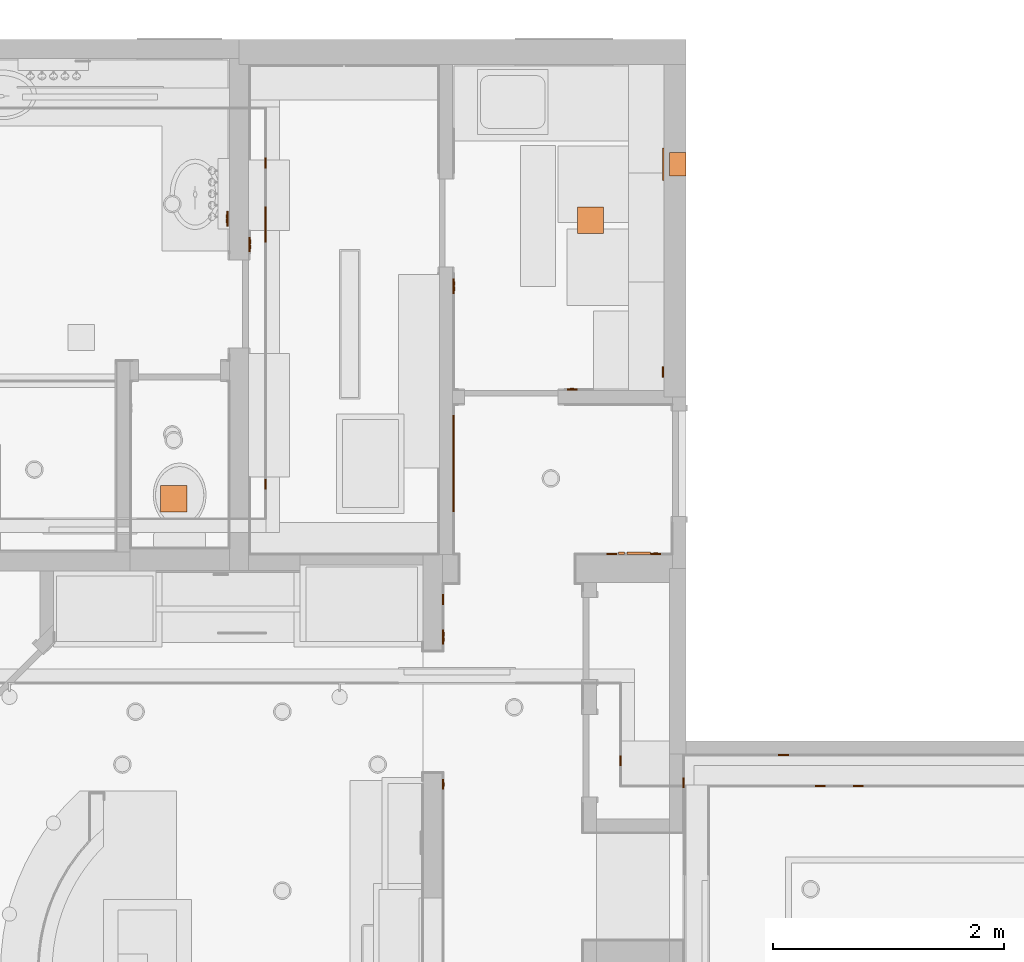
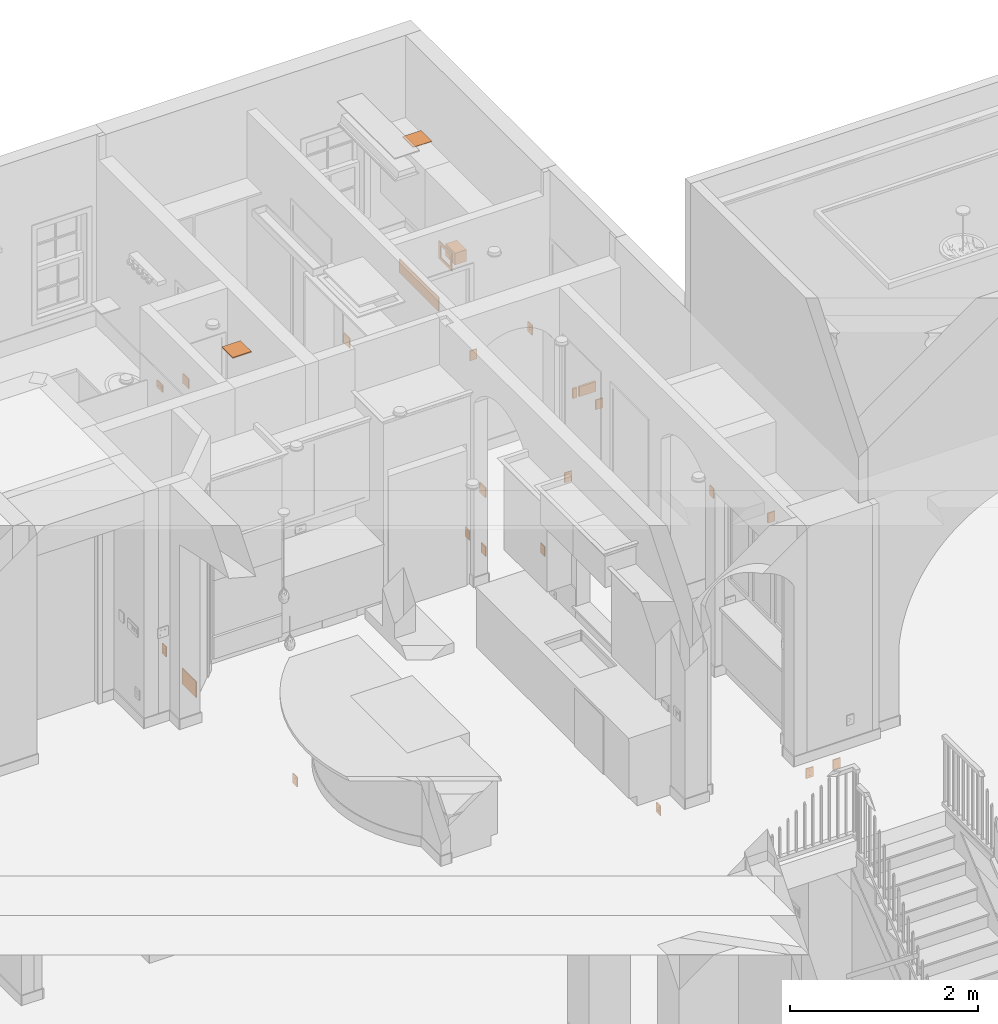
# One storey, part 69 of 81: 25 proxies.
"""IFC2X3 building model written with IfcOpenShell, lengths in feet."""

from ifc_helpers import new_model, entity, si_unit, converted_unit, derived_unit, direction, frame, frame_2d, origin, origin_2d_with_axis, place, context, subcontext, project, spatial, polyline, circle_curve, parameter, trimmed, segment, composite_curve, rectangle, outline, extrude, source, transform, mapped, material, type_object, type_shapes, element, save


model = new_model("IFC2X3")

# Units and contexts
model_context = context("Model", 3, precision=0.0001, world=origin(), true_north=direction((6.12303176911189e-17, 1.0)))
body_context = subcontext(model_context, "Body", "Model", "MODEL_VIEW")
ifc_project = project(units=[converted_unit("LENGTHUNIT", "FOOT", entity("IfcRatioMeasure", 0.3048), si_unit("LENGTHUNIT", "METRE"), dimensions=[1, 0, 0, 0, 0, 0, 0]), converted_unit("AREAUNIT", "SQUARE FOOT", entity("IfcRatioMeasure", 0.09290304), si_unit("AREAUNIT", "SQUARE_METRE"), dimensions=[2, 0, 0, 0, 0, 0, 0]), converted_unit("VOLUMEUNIT", "CUBIC FOOT", entity("IfcRatioMeasure", 0.028316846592), si_unit("VOLUMEUNIT", "CUBIC_METRE"), dimensions=[3, 0, 0, 0, 0, 0, 0]), converted_unit("PLANEANGLEUNIT", "DEGREE", entity("IfcRatioMeasure", 0.0174532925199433), si_unit("PLANEANGLEUNIT", "RADIAN"), dimensions=[0, 0, 0, 0, 0, 0, 0]), si_unit("MASSUNIT", "GRAM", prefix="KILO"), derived_unit("MASSDENSITYUNIT", [(si_unit("MASSUNIT", "GRAM", prefix="KILO"), 1), (si_unit("LENGTHUNIT", "METRE"), -3)]), derived_unit("MOMENTOFINERTIAUNIT", [(si_unit("LENGTHUNIT", "METRE"), 4)]), si_unit("TIMEUNIT", "SECOND"), si_unit("FREQUENCYUNIT", "HERTZ"), si_unit("THERMODYNAMICTEMPERATUREUNIT", "DEGREE_CELSIUS"), derived_unit("THERMALTRANSMITTANCEUNIT", [(si_unit("MASSUNIT", "GRAM", prefix="KILO"), 1), (si_unit("THERMODYNAMICTEMPERATUREUNIT", "KELVIN"), -1), (si_unit("TIMEUNIT", "SECOND"), -3)]), derived_unit("VOLUMETRICFLOWRATEUNIT", [(si_unit("LENGTHUNIT", "METRE"), 3), (si_unit("TIMEUNIT", "SECOND"), -1)]), si_unit("ELECTRICCURRENTUNIT", "AMPERE"), si_unit("ELECTRICVOLTAGEUNIT", "VOLT"), si_unit("POWERUNIT", "WATT"), si_unit("FORCEUNIT", "NEWTON"), si_unit("ILLUMINANCEUNIT", "LUX"), si_unit("LUMINOUSFLUXUNIT", "LUMEN"), si_unit("LUMINOUSINTENSITYUNIT", "CANDELA"), derived_unit("USERDEFINED", [(si_unit("MASSUNIT", "GRAM", prefix="KILO"), -1), (si_unit("LENGTHUNIT", "METRE"), -2), (si_unit("TIMEUNIT", "SECOND"), 3), (si_unit("LUMINOUSFLUXUNIT", "LUMEN"), 1)]), derived_unit("LINEARVELOCITYUNIT", [(si_unit("LENGTHUNIT", "METRE"), 1), (si_unit("TIMEUNIT", "SECOND"), -1)]), si_unit("PRESSUREUNIT", "PASCAL"), derived_unit("USERDEFINED", [(si_unit("LENGTHUNIT", "METRE"), -2), (si_unit("MASSUNIT", "GRAM", prefix="KILO"), 1), (si_unit("TIMEUNIT", "SECOND"), -2)]), derived_unit("LINEARFORCEUNIT", [(si_unit("MASSUNIT", "GRAM", prefix="KILO"), 1), (si_unit("LENGTHUNIT", "METRE"), 1), (si_unit("TIMEUNIT", "SECOND"), -2), (si_unit("LENGTHUNIT", "METRE"), -1)]), derived_unit("PLANARFORCEUNIT", [(si_unit("MASSUNIT", "GRAM", prefix="KILO"), 1), (si_unit("LENGTHUNIT", "METRE"), 1), (si_unit("TIMEUNIT", "SECOND"), -2), (si_unit("LENGTHUNIT", "METRE"), -2)])], contexts=[model_context])

# Site, building, storey
site_placement = place(None, origin())
site = spatial("IfcSite", under=ifc_project, at=site_placement, Name="Default", CompositionType="ELEMENT")
building_placement = place(site_placement, origin())
building = spatial("IfcBuilding", under=site, at=building_placement, CompositionType="ELEMENT")
storey_placement = place(building_placement, origin())
storey = spatial("IfcBuildingStorey", under=building, at=storey_placement, Name="First floor", CompositionType="ELEMENT", Elevation=0.0)

# Proxies
ifc_material = material(Name="Default New Material")
building_element_proxy_type_1 = type_object("IfcBuildingElementProxyType", Name="Switch 4:Switch 4", PredefinedType="NOTDEFINED", material=ifc_material)
shared_shape_1 = source(origin(), body_context, "Body", "SweptSolid", [
    extrude(outline(composite_curve([segment(polyline([(-0.0309162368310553, -0.0465871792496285), (0.0309162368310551, -0.0465871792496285)]), True, "CONTINUOUS"), segment(trimmed(circle_curve(frame_2d((-0.000264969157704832, 0.0), x_axis=(-1.0, 0.0)), 0.056059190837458), [parameter(123.794740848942)], [parameter(236.205259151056)], True, "PARAMETER"), True, "CONTINUOUS"), segment(polyline([(0.0309162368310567, 0.0465871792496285), (-0.0309162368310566, 0.0465871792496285)]), True, "CONTINUOUS"), segment(trimmed(circle_curve(frame_2d((0.000264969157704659, 0.0), x_axis=(1.0, 0.0)), 0.056059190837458), [parameter(123.794740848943)], [parameter(236.205259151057)], True, "PARAMETER"), True, "CONTINUOUS")], self_intersect=False), holes=[polyline([(0.0141623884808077, 0.0279286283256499), (0.0261732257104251, 0.0279286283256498), (0.026173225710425, -0.00693584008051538), (0.0141623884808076, -0.00693584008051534), (0.0141623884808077, 0.0279286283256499)]), polyline([(-0.0152702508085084, 0.0250466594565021), (-0.0152702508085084, -0.00448340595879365), (-0.0278178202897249, -0.00448340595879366), (-0.0278178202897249, 0.0250466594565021), (-0.0152702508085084, 0.0250466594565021)]), composite_curve([segment(polyline([(-0.0120315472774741, -0.041319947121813), (-0.0120315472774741, -0.0300186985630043)]), True, "CONTINUOUS"), segment(trimmed(circle_curve(frame_2d((-0.000284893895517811, -0.0300186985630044), x_axis=(-1.0, 0.0)), 0.0117466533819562), [parameter(180.0)], [parameter(0.0)], True, "PARAMETER"), False, "CONTINUOUS"), segment(polyline([(0.0114617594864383, -0.0300186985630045), (0.0114617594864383, -0.0413199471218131)]), True, "CONTINUOUS"), segment(polyline([(0.0114617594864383, -0.0413199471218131), (-0.0120315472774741, -0.041319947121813)]), True, "CONTINUOUS")], self_intersect=False)]), frame((-0.0114927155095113, 0.0416666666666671, 0.27060332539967), z_axis=(0.0, 1.0, 0.0), x_axis=(-1.0, 0.0, 0.0)), (0.0, 0.0, 1.0), 0.00420900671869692),
    extrude(outline(composite_curve([segment(polyline([(-0.0307631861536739, -0.0463565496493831), (0.0307631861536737, -0.0463565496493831)]), True, "CONTINUOUS"), segment(trimmed(circle_curve(frame_2d((-0.000263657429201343, 0.0), x_axis=(-1.0, 0.0)), 0.0557816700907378), [parameter(123.794740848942)], [parameter(236.205259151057)], True, "PARAMETER"), True, "CONTINUOUS"), segment(polyline([(0.030763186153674, 0.0463565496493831), (-0.0307631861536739, 0.0463565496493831)]), True, "CONTINUOUS"), segment(trimmed(circle_curve(frame_2d((0.00026365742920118, 0.0), x_axis=(1.0, 0.0)), 0.0557816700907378), [parameter(123.794740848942)], [parameter(236.205259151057)], True, "PARAMETER"), True, "CONTINUOUS")], self_intersect=False), holes=[polyline([(0.0140922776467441, 0.0247228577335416), (0.026043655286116, 0.0247228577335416), (0.0260436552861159, -0.00472751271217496), (0.014092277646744, -0.00472751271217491), (0.0140922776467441, 0.0247228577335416)]), polyline([(-0.0151946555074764, 0.0249226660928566), (-0.0151946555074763, -0.0044612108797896), (-0.0276801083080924, -0.00446121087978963), (-0.0276801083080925, 0.0249226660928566), (-0.0151946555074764, 0.0249226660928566)]), composite_curve([segment(polyline([(-0.0119719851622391, -0.0411153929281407), (-0.011971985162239, -0.0298700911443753)]), True, "CONTINUOUS"), segment(trimmed(circle_curve(frame_2d((-0.000283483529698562, -0.0298700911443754), x_axis=(-1.0, 0.0)), 0.0116885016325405), [parameter(180.0)], [parameter(0.0)], True, "PARAMETER"), False, "CONTINUOUS"), segment(polyline([(0.0114050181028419, -0.0298700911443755), (0.0114050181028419, -0.0411153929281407)]), True, "CONTINUOUS"), segment(polyline([(0.0114050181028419, -0.0411153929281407), (-0.0119719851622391, -0.0411153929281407)]), True, "CONTINUOUS")], self_intersect=False)]), frame((-0.0114927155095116, 0.0416666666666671, 0.145832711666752), z_axis=(0.0, 1.0, 0.0), x_axis=(-1.0, 0.0, 0.0)), (0.0, 0.0, 1.0), 0.00420900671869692),
    extrude(rectangle(XDim=0.0416666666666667, YDim=0.291666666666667, at=frame_2d((0.0, 1.38777878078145e-17), x_axis=(1.0, 0.0))), frame((-0.0114927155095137, 0.0208333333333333, 0.0), z_axis=(0.0, 0.0, 1.0), x_axis=(0.0, -1.0, 0.0)), (0.0, 0.0, 1.0), 0.416666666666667),
])
type_shapes(building_element_proxy_type_1, [shared_shape_1])
for number, where, z_axis, x_axis, name in (
    (1, (24.1760072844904, 26.875, 0.958335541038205), (0.0, 0.0, 1.0), (-1.0, 0.0, 0.0), "Switch 4:Switch 4"),
    (2, (18.5416666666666, 27.5739927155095, 0.958335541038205), (0.0, 0.0, 1.0), (0.0, 1.0, 0.0), "Switch 4:Switch 4"),
    (3, (13.4583333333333, 31.0089954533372, 11.6666666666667), (0.0, 0.0, 1.0), (0.0, -1.0, 0.0), "Switch 4:Switch 4"),
    (4, (8.45833333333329, 35.4281593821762, 0.958333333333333), (0.0, 0.0, 1.0), (0.0, 1.0, 0.0), "Switch 4:Switch 4"),
    (5, (8.4583333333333, 44.5531593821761, 0.958333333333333), (0.0, 0.0, 1.0), (0.0, 1.0, 0.0), "Switch 4:Switch 4"),
):
    element("IfcBuildingElementProxy", number, at=place(storey_placement, frame(where, z_axis=z_axis, x_axis=x_axis)), inside=storey, type_object=building_element_proxy_type_1, material=ifc_material, Name=name, ObjectType="Switch 4:Switch 4", context=body_context, shape_type="MappedRepresentation", body=[
        mapped(shared_shape_1, transform((0.0, 0.0, 0.0), scale=1.0)),
    ])
proxy_1_placement = place(storey_placement, frame((18.2823260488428, 33.4163215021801, 11.6250022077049)))
element("IfcBuildingElementProxy", 6, at=proxy_1_placement, inside=storey, type_object=building_element_proxy_type_1, material=ifc_material, Name="Switch 4:Switch 4", ObjectType="Switch 4:Switch 4", context=body_context, shape_type="MappedRepresentation", body=[
    mapped(shared_shape_1, transform((0.0, 0.0, 0.0), scale=1.0)),
])
proxy_2_placement = place(storey_placement, frame((19.75, 38.6153142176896, 14.2916688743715), z_axis=(0.0, 0.0, 1.0), x_axis=(0.0, 1.0, 0.0)))
element("IfcBuildingElementProxy", 7, at=proxy_2_placement, inside=storey, type_object=building_element_proxy_type_1, material=ifc_material, Name="Switch 4:Switch 4", ObjectType="Switch 4:Switch 4", context=body_context, shape_type="MappedRepresentation", body=[
    mapped(shared_shape_1, transform((0.0, 0.0, 0.0), scale=1.0)),
])
building_element_proxy_type_2 = type_object("IfcBuildingElementProxyType", Name="Switch 1:Switch 1", PredefinedType="NOTDEFINED", material=ifc_material)
shared_shape_2 = source(origin(), body_context, "Body", "SweptSolid", [
    extrude(rectangle(XDim=0.0416666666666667, YDim=0.291666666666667, at=frame_2d((1.73472347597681e-18, -1.38777878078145e-17), x_axis=(1.0, 0.0))), frame((0.0149704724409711, 0.0208333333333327, 0.0), z_axis=(0.0, 0.0, 1.0), x_axis=(0.0, 1.0, 0.0)), (0.0, 0.0, 1.0), 0.416666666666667),
])
type_shapes(building_element_proxy_type_2, [shared_shape_2])
for number, where, z_axis, x_axis, name in (
    (8, (25.2858038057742, 26.875, 0.958333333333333), (0.0, 0.0, 1.0), (-1.0, 0.0, 0.0), "Switch 1:Switch 1"),
    (9, (13.4583333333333, 32.1604586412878, 11.6666666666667), (0.0, 0.0, 1.0), (0.0, -1.0, 0.0), "Switch 1:Switch 1"),
    (10, (23.1608038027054, 27.75, 11.6666666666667), (0.0, 0.0, 1.0), (-1.0, 0.0, 0.0), "Switch 1:Switch 1"),
    (11, (20.2916666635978, 26.952470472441, 14.2083333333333), (0.0, 0.0, 1.0), (0.0, -1.0, 0.0), "Switch 1:Switch 1"),
):
    element("IfcBuildingElementProxy", number, at=place(storey_placement, frame(where, z_axis=z_axis, x_axis=x_axis)), inside=storey, type_object=building_element_proxy_type_2, material=ifc_material, Name=name, ObjectType="Switch 1:Switch 1", context=body_context, shape_type="MappedRepresentation", body=[
        mapped(shared_shape_2, transform((0.0, 0.0, 0.0), scale=1.0)),
    ])
building_element_proxy_type_3 = type_object("IfcBuildingElementProxyType", Name="Switch 15:Switch 15", PredefinedType="NOTDEFINED", material=ifc_material)
shared_shape_3 = source(origin(), body_context, "Body", "SweptSolid", [
    extrude(outline(composite_curve([segment(polyline([(-0.0309162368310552, -0.0465871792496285), (0.030916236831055, -0.0465871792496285)]), True, "CONTINUOUS"), segment(trimmed(circle_curve(frame_2d((-0.000264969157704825, 0.0), x_axis=(-1.0, 0.0)), 0.056059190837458), [parameter(123.794740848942)], [parameter(236.205259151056)], True, "PARAMETER"), True, "CONTINUOUS"), segment(polyline([(0.0309162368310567, 0.0465871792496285), (-0.0309162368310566, 0.0465871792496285)]), True, "CONTINUOUS"), segment(trimmed(circle_curve(frame_2d((0.000264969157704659, 0.0), x_axis=(1.0, 0.0)), 0.056059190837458), [parameter(123.794740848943)], [parameter(236.205259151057)], True, "PARAMETER"), True, "CONTINUOUS")], self_intersect=False), holes=[polyline([(0.0141623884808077, 0.0279286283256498), (0.026173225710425, 0.0279286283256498), (0.0261732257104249, -0.00693584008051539), (0.0141623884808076, -0.00693584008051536), (0.0141623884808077, 0.0279286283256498)]), polyline([(-0.0152702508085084, 0.0250466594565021), (-0.0152702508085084, -0.00448340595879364), (-0.0278178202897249, -0.00448340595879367), (-0.027817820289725, 0.025046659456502), (-0.0152702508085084, 0.0250466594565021)]), composite_curve([segment(polyline([(-0.0120315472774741, -0.041319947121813), (-0.0120315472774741, -0.0300186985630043)]), True, "CONTINUOUS"), segment(trimmed(circle_curve(frame_2d((-0.000284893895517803, -0.0300186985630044), x_axis=(-1.0, 0.0)), 0.0117466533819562), [parameter(180.0)], [parameter(0.0)], True, "PARAMETER"), False, "CONTINUOUS"), segment(polyline([(0.0114617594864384, -0.0300186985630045), (0.0114617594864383, -0.0413199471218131)]), True, "CONTINUOUS"), segment(polyline([(0.0114617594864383, -0.0413199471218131), (-0.0120315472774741, -0.041319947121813)]), True, "CONTINUOUS")], self_intersect=False)]), frame((-0.0667122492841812, 0.0416666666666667, 0.14583333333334), z_axis=(0.0, 1.0, 0.0), x_axis=(0.0, 0.0, -1.0)), (0.0, 0.0, 1.0), 0.00420900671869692),
    extrude(outline(composite_curve([segment(polyline([(-0.0307631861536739, -0.0463565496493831), (0.0307631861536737, -0.0463565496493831)]), True, "CONTINUOUS"), segment(trimmed(circle_curve(frame_2d((-0.000263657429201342, 0.0), x_axis=(-1.0, 0.0)), 0.0557816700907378), [parameter(123.794740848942)], [parameter(236.205259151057)], True, "PARAMETER"), True, "CONTINUOUS"), segment(polyline([(0.030763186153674, 0.0463565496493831), (-0.0307631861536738, 0.0463565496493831)]), True, "CONTINUOUS"), segment(trimmed(circle_curve(frame_2d((0.000263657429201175, 0.0), x_axis=(1.0, 0.0)), 0.0557816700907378), [parameter(123.794740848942)], [parameter(236.205259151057)], True, "PARAMETER"), True, "CONTINUOUS")], self_intersect=False), holes=[polyline([(0.0140922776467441, 0.0247228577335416), (0.026043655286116, 0.0247228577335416), (0.0260436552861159, -0.00472751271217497), (0.014092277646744, -0.00472751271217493), (0.0140922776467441, 0.0247228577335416)]), polyline([(-0.0151946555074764, 0.0249226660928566), (-0.0151946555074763, -0.00446121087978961), (-0.0276801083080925, -0.00446121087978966), (-0.0276801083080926, 0.0249226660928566), (-0.0151946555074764, 0.0249226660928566)]), composite_curve([segment(polyline([(-0.0119719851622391, -0.0411153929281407), (-0.0119719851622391, -0.0298700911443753)]), True, "CONTINUOUS"), segment(trimmed(circle_curve(frame_2d((-0.000283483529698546, -0.0298700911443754), x_axis=(-1.0, 0.0)), 0.0116885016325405), [parameter(180.0)], [parameter(1.01777749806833e-13)], True, "PARAMETER"), False, "CONTINUOUS"), segment(polyline([(0.011405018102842, -0.0298700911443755), (0.0114050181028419, -0.0411153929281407)]), True, "CONTINUOUS"), segment(polyline([(0.0114050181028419, -0.0411153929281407), (-0.0119719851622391, -0.0411153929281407)]), True, "CONTINUOUS")], self_intersect=False)]), frame((0.058058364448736, 0.0416666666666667, 0.145833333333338), z_axis=(0.0, 1.0, 0.0), x_axis=(0.0, 0.0, -1.0)), (0.0, 0.0, 1.0), 0.00420900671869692),
    extrude(rectangle(XDim=0.0416666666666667, YDim=0.416666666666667, at=origin_2d_with_axis()), frame((-0.00444225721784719, 0.0208333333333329, 0.0), z_axis=(0.0, 0.0, 1.0), x_axis=(0.0, -1.0, 0.0)), (0.0, 0.0, 1.0), 0.291666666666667),
])
type_shapes(building_element_proxy_type_3, [shared_shape_3])
proxy_3_placement = place(storey_placement, frame((7.37499999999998, 42.9624304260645, 13.5833333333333), z_axis=(0.0, 0.0, 1.0), x_axis=(0.0, 1.0, 0.0)))
element("IfcBuildingElementProxy", 12, at=proxy_3_placement, inside=storey, type_object=building_element_proxy_type_3, material=ifc_material, Name="Switch 15:Switch 15", ObjectType="Switch 15:Switch 15", context=body_context, shape_type="MappedRepresentation", body=[
    mapped(shared_shape_3, transform((0.0, 0.0, 0.0), scale=1.0)),
])
building_element_proxy_type_4 = type_object("IfcBuildingElementProxyType", Name="Wall Duct:Wall Duct", PredefinedType="NOTDEFINED", material=ifc_material)
shared_shape_4 = source(origin(), body_context, "Body", "SweptSolid", [
    extrude(rectangle(XDim=2.75, YDim=0.041666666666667, at=origin_2d_with_axis()), frame((0.0, -0.0208333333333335, 0.0), z_axis=(0.0, 0.0, 1.0), x_axis=(-1.0, 0.0, 0.0)), (0.0, 0.0, 1.0), 0.583333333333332),
])
type_shapes(building_element_proxy_type_4, [shared_shape_4])
proxy_4_placement = place(storey_placement, frame((13.75, 36.0050629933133, 19.7083333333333), z_axis=(0.0, 0.0, 1.0), x_axis=(0.0, 1.0, 0.0)))
element("IfcBuildingElementProxy", 13, at=proxy_4_placement, inside=storey, type_object=building_element_proxy_type_4, material=ifc_material, Name="Wall Duct:Wall Duct", ObjectType="Wall Duct:Wall Duct", context=body_context, shape_type="MappedRepresentation", body=[
    mapped(shared_shape_4, transform((0.0, 0.0, 0.0), scale=1.0)),
])
building_element_proxy_type_5 = type_object("IfcBuildingElementProxyType", Name="Switch 6:Switch 6", PredefinedType="NOTDEFINED", material=ifc_material)
shared_shape_5 = source(origin(), body_context, "Body", "SweptSolid", [
    extrude(outline(polyline([(-0.0254447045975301, -0.101047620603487), (-0.00704945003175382, -0.101047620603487), (-0.00576030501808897, -0.0270975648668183), (0.021685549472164, 0.114099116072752), (0.0165689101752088, 0.11509369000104), (-0.0254447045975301, -0.101047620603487)])), frame((0.0159752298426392, 0.0473630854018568, 0.202286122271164), z_axis=(1.0, 0.0, 0.0), x_axis=(0.0, 0.981627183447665, 0.190808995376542)), (0.0, 0.0, 1.0), 0.104166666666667),
    extrude(outline(polyline([(-0.105609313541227, -0.00595439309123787), (0.114577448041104, -0.00595439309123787), (0.114577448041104, -0.000741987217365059), (-0.0216969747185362, -0.00074198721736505), (-0.101848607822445, 0.0133927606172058), (-0.105609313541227, -0.00595439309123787)])), frame((-0.129858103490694, 0.047621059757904, 0.211324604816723), z_axis=(1.0, 0.0, 0.0), x_axis=(0.0, 0.0, -1.0)), (0.0, 0.0, 1.0), 0.104166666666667),
    extrude(rectangle(XDim=0.0416666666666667, YDim=0.416666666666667, at=frame_2d((0.0, -1.38777878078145e-17), x_axis=(1.0, 0.0))), frame((-0.00485810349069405, 0.0208333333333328, 0.0), z_axis=(0.0, 0.0, 1.0), x_axis=(0.0, -1.0, 0.0)), (0.0, 0.0, 1.0), 0.416666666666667),
])
type_shapes(building_element_proxy_type_5, [shared_shape_5])
for number, where, z_axis, x_axis, name in (
    (14, (13.4583333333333, 31.0781300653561, 14.1666666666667), (0.0, 0.0, 1.0), (0.0, -1.0, 0.0), "Switch 6:Switch 6"),
    (15, (7.95833333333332, 42.2239633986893, 13.9583333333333), (0.0, 0.0, 1.0), (0.0, -1.0, 0.0), "Switch 6:Switch 6"),
    (16, (13.75, 41.0364633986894, 14.375), (0.0, 0.0, 1.0), (0.0, -1.0, 0.0), "Switch 6:Switch 6"),
):
    element("IfcBuildingElementProxy", number, at=place(storey_placement, frame(where, z_axis=z_axis, x_axis=x_axis)), inside=storey, type_object=building_element_proxy_type_5, material=ifc_material, Name=name, ObjectType="Switch 6:Switch 6", context=body_context, shape_type="MappedRepresentation", body=[
        mapped(shared_shape_5, transform((0.0, 0.0, 0.0), scale=1.0)),
    ])
building_element_proxy_type_6 = type_object("IfcBuildingElementProxyType", Name="Switch 3:Switch 3", PredefinedType="NOTDEFINED", material=ifc_material)
shared_shape_6 = source(origin(), body_context, "Body", "SweptSolid", [
    extrude(outline(polyline([(-0.104054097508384, -0.005864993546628), (0.112106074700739, -0.005864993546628), (0.112106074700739, -0.000652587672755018), (-0.0212705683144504, -0.000652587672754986), (-0.0988874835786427, 0.0130351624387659), (-0.104054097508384, -0.005864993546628)])), frame((-0.0648037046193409, 0.0475316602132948, 0.212359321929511), z_axis=(1.0, 0.0, 0.0), x_axis=(0.0, 0.0, -1.0)), (0.0, 0.0, 1.0), 0.104166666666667),
    extrude(rectangle(XDim=0.0416666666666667, YDim=0.291666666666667, at=frame_2d((0.0, -1.38777878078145e-17), x_axis=(1.0, 0.0))), frame((-0.012720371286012, 0.020833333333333, 0.0), z_axis=(0.0, 0.0, 1.0), x_axis=(0.0, -1.0, 0.0)), (0.0, 0.0, 1.0), 0.416666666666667),
])
type_shapes(building_element_proxy_type_6, [shared_shape_6])
for number, where, name in (
    (17, (19.5335537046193, 33.4163215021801, 14.2916666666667), "Switch 3:Switch 3"),
    (18, (17.1585537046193, 38.0829881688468, 14.375), "Switch 3:Switch 3"),
):
    element("IfcBuildingElementProxy", number, at=place(storey_placement, frame(where)), inside=storey, type_object=building_element_proxy_type_6, material=ifc_material, Name=name, ObjectType="Switch 3:Switch 3", context=body_context, shape_type="MappedRepresentation", body=[
        mapped(shared_shape_6, transform((0.0, 0.0, 0.0), scale=1.0)),
    ])
proxy_5_placement = place(storey_placement, frame((13.4583333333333, 26.8827677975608, 14.1666666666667), z_axis=(0.0, 0.0, 1.0), x_axis=(0.0, -1.0, 0.0)))
element("IfcBuildingElementProxy", 19, at=proxy_5_placement, inside=storey, type_object=building_element_proxy_type_6, material=ifc_material, Name="Switch 3:Switch 3", ObjectType="Switch 3:Switch 3", context=body_context, shape_type="MappedRepresentation", body=[
    mapped(shared_shape_6, transform((0.0, 0.0, 0.0), scale=1.0)),
])
building_element_proxy_type_7 = type_object("IfcBuildingElementProxyType", Name="Ceiling Duct:Ceiling Duct", PredefinedType="NOTDEFINED", material=ifc_material)
shared_shape_7 = source(origin(), body_context, "Body", "SweptSolid", [
    extrude(rectangle(XDim=0.75, YDim=0.75, at=frame_2d((0.0, 5.55111512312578e-17), x_axis=(1.0, 0.0))), frame((0.375000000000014, -0.375000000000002, -0.0416666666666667), z_axis=(0.0, 0.0, 1.0), x_axis=(0.0, 1.0, 0.0)), (0.0, 0.0, 1.0), 0.0416666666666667),
])
type_shapes(building_element_proxy_type_7, [shared_shape_7])
proxy_6_placement = place(storey_placement, frame((5.45833333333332, 35.3746548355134, 20.6666666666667)))
element("IfcBuildingElementProxy", 20, at=proxy_6_placement, inside=storey, type_object=building_element_proxy_type_7, material=ifc_material, Name="Ceiling Duct:Ceiling Duct", ObjectType="Ceiling Duct:Ceiling Duct", context=body_context, shape_type="MappedRepresentation", body=[
    mapped(shared_shape_7, transform((0.0, 0.0, 0.0), scale=1.0)),
])
building_element_proxy_type_8 = type_object("IfcBuildingElementProxyType", Name="Wall Duct:Wall Duct", PredefinedType="NOTDEFINED", material=ifc_material)
shared_shape_8 = source(origin(), body_context, "Body", "SweptSolid", [
    extrude(rectangle(XDim=1.0, YDim=0.041666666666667, at=frame_2d((-5.55111512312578e-17, 0.0), x_axis=(1.0, 0.0))), frame((0.0, -0.0208333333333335, 0.0), z_axis=(0.0, 0.0, 1.0), x_axis=(-1.0, 0.0, 0.0)), (0.0, 0.0, 1.0), 0.666666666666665),
])
type_shapes(building_element_proxy_type_8, [shared_shape_8])
proxy_7_placement = place(storey_placement, frame((8.41666666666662, 42.7916666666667, 0.5), z_axis=(0.0, 0.0, 1.0), x_axis=(0.0, 1.0, 0.0)))
element("IfcBuildingElementProxy", 21, at=proxy_7_placement, inside=storey, type_object=building_element_proxy_type_8, material=ifc_material, Name="Wall Duct:Wall Duct", ObjectType="Wall Duct:Wall Duct", context=body_context, shape_type="MappedRepresentation", body=[
    mapped(shared_shape_8, transform((0.0, 0.0, 0.0), scale=1.0)),
])
building_element_proxy_type_9 = type_object("IfcBuildingElementProxyType", Name="Generic_02:Generic_02", PredefinedType="NOTDEFINED", material=ifc_material)
shared_shape_9 = source(origin(), body_context, "Body", "SweptSolid", [
    extrude(rectangle(XDim=0.75, YDim=0.75, at=frame_2d((0.0, 5.55111512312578e-17), x_axis=(1.0, 0.0))), frame((0.374999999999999, -0.375000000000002, -0.0208333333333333), z_axis=(0.0, 0.0, 1.0), x_axis=(0.0, 1.0, 0.0)), (0.0, 0.0, 1.0), 0.0208333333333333),
])
type_shapes(building_element_proxy_type_9, [shared_shape_9])
proxy_8_placement = place(storey_placement, frame((17.2916666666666, 43.2913215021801, 20.6666666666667)))
element("IfcBuildingElementProxy", 22, at=proxy_8_placement, inside=storey, type_object=building_element_proxy_type_9, material=ifc_material, Name="Generic_02:Generic_02", ObjectType="Generic_02:Generic_02", context=body_context, shape_type="MappedRepresentation", body=[
    mapped(shared_shape_9, transform((0.0, 0.0, 0.0), scale=1.0)),
])
building_element_proxy_type_10 = type_object("IfcBuildingElementProxyType", Name="Wall void 1 :Wall void 1", PredefinedType="NOTDEFINED", material=ifc_material)
shared_shape_10 = source(origin(), body_context, "Body", "SweptSolid", [
    extrude(rectangle(XDim=0.458333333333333, YDim=0.666666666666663, at=origin_2d_with_axis()), frame((0.743438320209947, -0.0833333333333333, 0.0), z_axis=(0.0, 0.0, 1.0), x_axis=(0.0, -1.0, 0.0)), (0.0, 0.0, 1.0), 0.5),
    extrude(outline(polyline([(-0.375, -0.458333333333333), (0.375, -0.458333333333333), (0.375, 0.458333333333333), (-0.375, 0.458333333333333), (-0.375, -0.458333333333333)]), holes=[polyline([(0.25, -0.333333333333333), (-0.25, -0.333333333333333), (-0.25, 0.333333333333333), (0.25, 0.333333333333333), (0.25, -0.333333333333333)])]), frame((0.743438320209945, 0.3125, 0.25), z_axis=(0.0, 1.0, 0.0), x_axis=(0.0, 0.0, -1.0)), (0.0, 0.0, 1.0), 0.0416666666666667),
])
type_shapes(building_element_proxy_type_10, [shared_shape_10])
proxy_9_placement = place(storey_placement, frame((20.0625, 43.7562165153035, 13.75), z_axis=(0.0, 0.0, 1.0), x_axis=(0.0, 1.0, 0.0)))
element("IfcBuildingElementProxy", 23, at=proxy_9_placement, inside=storey, type_object=building_element_proxy_type_10, material=ifc_material, Name="Wall void 1 :Wall void 1", ObjectType="Wall void 1 :Wall void 1", context=body_context, shape_type="MappedRepresentation", body=[
    mapped(shared_shape_10, transform((0.0, 0.0, 0.0), scale=1.0)),
])
building_element_proxy_type_11 = type_object("IfcBuildingElementProxyType", Name="Specialty Equipment_1:Specialty Equipment_1", PredefinedType="NOTDEFINED", material=ifc_material)
shared_shape_11 = source(origin(), body_context, "Body", "SweptSolid", [
    extrude(rectangle(XDim=0.166666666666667, YDim=0.0833333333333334, at=origin_2d_with_axis()), frame((0.0, -0.0416666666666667, 0.0), z_axis=(0.0, 0.0, 1.0), x_axis=(-1.0, 0.0, 0.0)), (0.0, 0.0, 1.0), 0.416666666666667),
])
type_shapes(building_element_proxy_type_11, [shared_shape_11])
proxy_10_placement = place(storey_placement, frame((18.5416666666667, 33.4996548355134, 15.0833333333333)))
element("IfcBuildingElementProxy", 24, at=proxy_10_placement, inside=storey, type_object=building_element_proxy_type_11, material=ifc_material, Name="Specialty Equipment_1:Specialty Equipment_1", ObjectType="Specialty Equipment_1:Specialty Equipment_1", context=body_context, shape_type="MappedRepresentation", body=[
    mapped(shared_shape_11, transform((0.0, 0.0, 0.0), scale=1.0)),
])
building_element_proxy_type_12 = type_object("IfcBuildingElementProxyType", Name="Specialty Equipment_1:Specialty Equipment_1", PredefinedType="NOTDEFINED", material=ifc_material)
shared_shape_12 = source(origin(), body_context, "Body", "SweptSolid", [
    extrude(rectangle(XDim=0.666666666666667, YDim=0.0833333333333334, at=origin_2d_with_axis()), frame((0.0, -0.0416666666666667, 0.0), z_axis=(0.0, 0.0, 1.0), x_axis=(-1.0, 0.0, 0.0)), (0.0, 0.0, 1.0), 0.416666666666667),
])
type_shapes(building_element_proxy_type_12, [shared_shape_12])
proxy_11_placement = place(storey_placement, frame((19.0416666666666, 33.4996548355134, 15.0833333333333)))
element("IfcBuildingElementProxy", 25, at=proxy_11_placement, inside=storey, type_object=building_element_proxy_type_12, material=ifc_material, Name="Specialty Equipment_1:Specialty Equipment_1", ObjectType="Specialty Equipment_1:Specialty Equipment_1", context=body_context, shape_type="MappedRepresentation", body=[
    mapped(shared_shape_12, transform((0.0, 0.0, 0.0), scale=1.0)),
])

save(model, "model.ifc")
